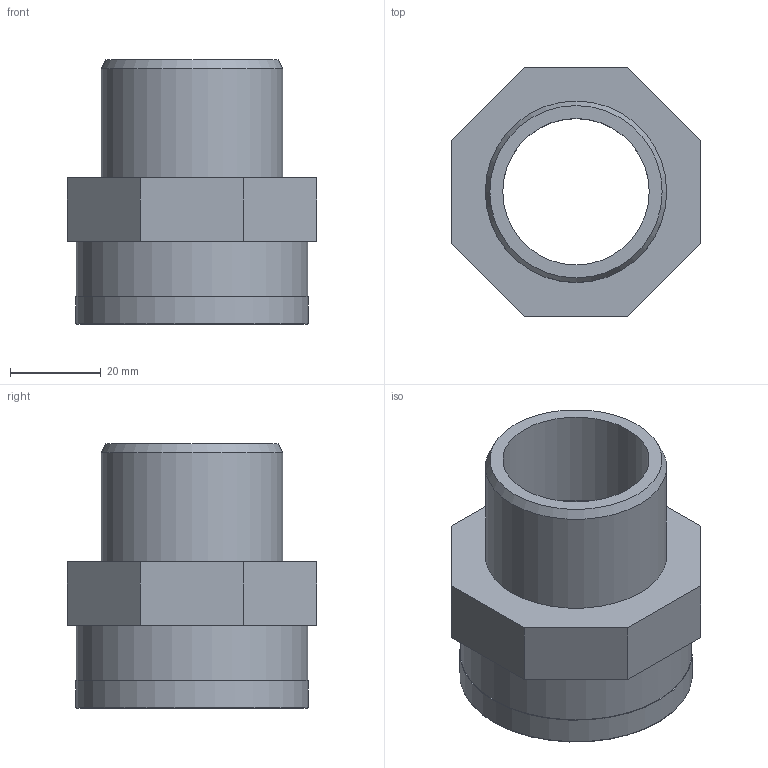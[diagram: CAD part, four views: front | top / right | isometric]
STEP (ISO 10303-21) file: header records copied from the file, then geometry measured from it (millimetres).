
FILE_DESCRIPTION(/* description */ (''),/* implementation_level */ '2;1');
FILE_NAME(/* name */ 'C:\Users\POLYPIPE\Desktop\DATASET INVENTOR\LIBRERIA EFFAST\RACCORDI 3DxWEB\RGR\3D_RGRAFR\3D_RGRAFR040E.stp',/* time_stamp */ '2018-01-19T17:31:19+01:00',/* author */ ('POLYPIPE'),/* organization */ (''),/* preprocessor_version */ 'ST-DEVELOPER v16.1',/* originating_system */ 'Autodesk Inventor 2016',/* authorisation */ '');
FILE_SCHEMA (('CONFIG_CONTROL_DESIGN'));
Length unit declared in the file: centimetre
Products named in the file (1): 3D_RGRAFR040E
Bounding box: 55 x 55 x 58.25 mm (x, y, z)
Volume: 45296.6 mm3; surface area: 20575.9 mm2
Topology: 1 solids, 1 shells, 31 faces, 67 edges, 44 vertices
Faces by surface type: plane 17, cylinder 7, bspline 5, cone 1, torus 1
Full cylindrical faces by diameter (mm): 32.3 x1, 32.952 x1, 38.952 x1, 40 x1, 45 x1, 51 x1, 51.3 x1
Entity records: 4564 total; most frequent: CARTESIAN_POINT 3878, DIRECTION 117, ORIENTED_EDGE 112, EDGE_CURVE 56, EDGE_LOOP 48, AXIS2_PLACEMENT_3D 45, VERTEX_POINT 42, STYLED_ITEM 32
